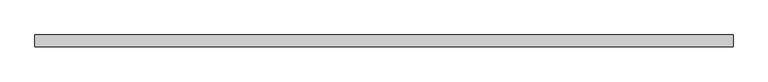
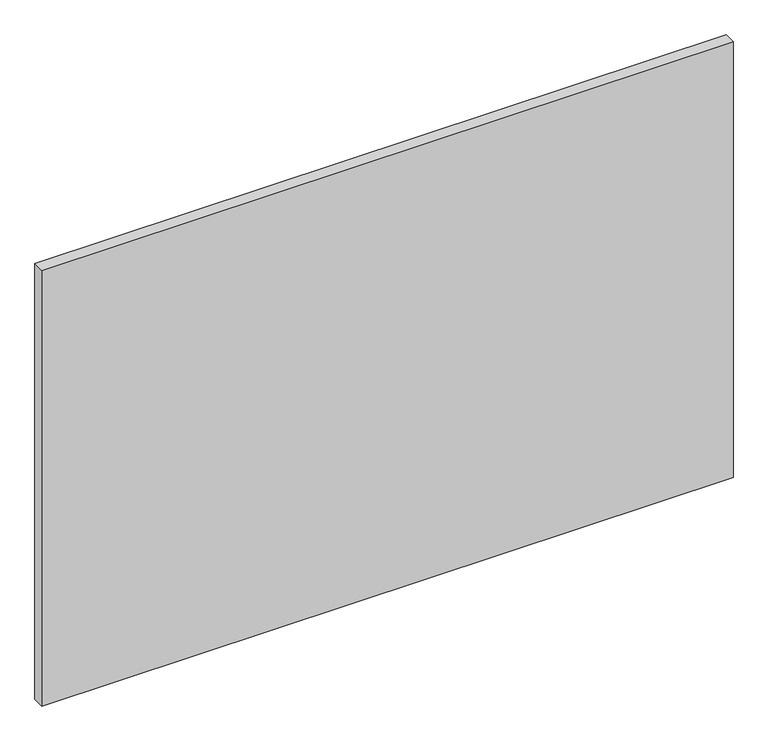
"""IFC4 building model written with IfcOpenShell, lengths in millimetres: proxy geometry, FOUNDATION^TABLE 5_60x180 ANGLE BASES-LEFT TOP."""

from ifc_helpers import new_model, si_unit, frame, origin, place, context, project, spatial, polyline, outline, extrude, source, transform, mapped, element, save


def generic_models_26014607(model_context):
    return source(origin(), model_context, "Body", "SweptSolid", [
        extrude(outline(polyline([(2286.0, 0.0), (0.0, 0.0), (0.0, 38.1), (2286.0, 38.1), (2286.0, 0.0)])), frame((0.0, 0.0, -1524.0), z_axis=(0.0, 0.0, 1.0), x_axis=(1.0, 0.0, 0.0)), (0.0, 0.0, 1.0), 1524.0),
    ])


if __name__ == "__main__":
    model = new_model("IFC4")
    model_context = context("Model", 3, world=origin())
    ifc_project = project(units=[si_unit("LENGTHUNIT", "METRE", prefix="MILLI")], contexts=[model_context])
    site = spatial("IfcSite", under=ifc_project)
    building = spatial("IfcBuilding", under=site)
    placement = place(None, origin())
    generic_models_shape = generic_models_26014607(model_context)
    element("IfcBuildingElementProxy", 1, Name="FOUNDATION^TABLE 5_60x180 ANGLE BASES-LEFT TOP", ObjectType="FOUNDATION^TABLE 5_60x180 ANGLE BASES-LEFT TOP", at=placement, inside=building, context=model_context, shape_type="MappedRepresentation", body=[
        mapped(generic_models_shape, transform((0.0, 0.0, 0.0), x_axis=(1.0, 0.0, 0.0), y_axis=(0.0, 1.0, 0.0), z_axis=(0.0, 0.0, 1.0))),
    ])
    save(model, "model.ifc")
